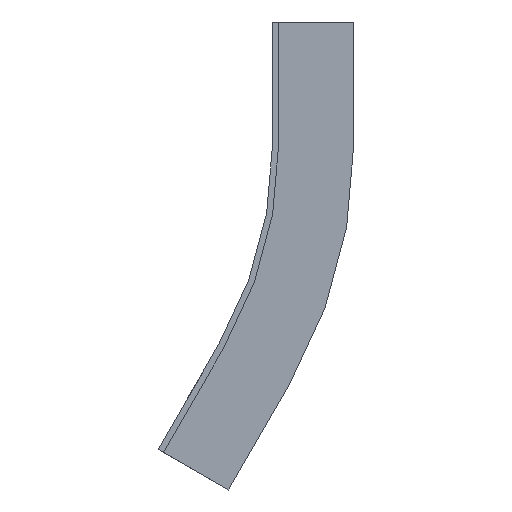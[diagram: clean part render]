
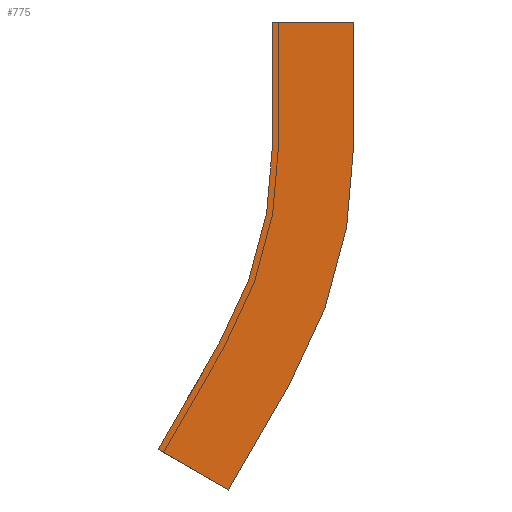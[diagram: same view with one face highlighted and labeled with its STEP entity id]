
A CAD part, left-side view. The second image highlights one B-rep face of the part: STEP entity #775.
In plain terms, the highlighted planar face has unit normal (-1, 0, 0).
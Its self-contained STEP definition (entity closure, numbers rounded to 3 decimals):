
#11 = DIRECTION ( 'NONE',  ( 0., 0., 1. ) ) ;
#13 = VERTEX_POINT ( 'NONE', #509 ) ;
#26 = VERTEX_POINT ( 'NONE', #111 ) ;
#27 = LINE ( 'NONE', #826, #350 ) ;
#61 = CARTESIAN_POINT ( 'NONE',  ( -203.5, 28.196, -105.231 ) ) ;
#80 = DIRECTION ( 'NONE',  ( 0., 0.5, -0.866 ) ) ;
#82 = ORIENTED_EDGE ( 'NONE', *, *, #229, .F. ) ;
#111 = CARTESIAN_POINT ( 'NONE',  ( -203.5, 10.876, -115.231 ) ) ;
#113 = VERTEX_POINT ( 'NONE', #174 ) ;
#122 = VECTOR ( 'NONE', #11, 1000. ) ;
#157 = ORIENTED_EDGE ( 'NONE', *, *, #719, .F. ) ;
#168 = ORIENTED_EDGE ( 'NONE', *, *, #214, .F. ) ;
#169 = DIRECTION ( 'NONE',  ( 0., -1., 0. ) ) ;
#173 = DIRECTION ( 'NONE',  ( 0., 0.866, 0.5 ) ) ;
#174 = CARTESIAN_POINT ( 'NONE',  ( -203.5, 0., 0. ) ) ;
#199 = DIRECTION ( 'NONE',  ( 0., 0., 1. ) ) ;
#202 = VERTEX_POINT ( 'NONE', #61 ) ;
#209 = DIRECTION ( 'NONE',  ( 0., 0., -1. ) ) ;
#214 = EDGE_CURVE ( 'NONE', #705, #397, #309, .T. ) ;
#216 = CARTESIAN_POINT ( 'NONE',  ( -203.5, 0., 0. ) ) ;
#222 = CARTESIAN_POINT ( 'NONE',  ( -203.5, 13.196, -79.25 ) ) ;
#223 = ORIENTED_EDGE ( 'NONE', *, *, #296, .F. ) ;
#229 = EDGE_CURVE ( 'NONE', #324, #113, #605, .T. ) ;
#243 = VECTOR ( 'NONE', #209, 1000. ) ;
#253 = CARTESIAN_POINT ( 'NONE',  ( -203.5, 13.196, -79.25 ) ) ;
#265 = ORIENTED_EDGE ( 'NONE', *, *, #635, .F. ) ;
#269 = VECTOR ( 'NONE', #173, 1000. ) ;
#296 = EDGE_CURVE ( 'NONE', #202, #438, #799, .T. ) ;
#300 = EDGE_CURVE ( 'NONE', #13, #705, #747, .T. ) ;
#309 = CIRCLE ( 'NONE', #470, 118.5 ) ;
#311 = ORIENTED_EDGE ( 'NONE', *, *, #328, .F. ) ;
#324 = VERTEX_POINT ( 'NONE', #428 ) ;
#328 = EDGE_CURVE ( 'NONE', #113, #13, #27, .T. ) ;
#345 = CARTESIAN_POINT ( 'NONE',  ( -203.5, -20., -30. ) ) ;
#350 = VECTOR ( 'NONE', #169, 1000. ) ;
#356 = EDGE_LOOP ( 'NONE', ( #311, #82, #265, #223, #157, #405, #168, #724 ) ) ;
#372 = CARTESIAN_POINT ( 'NONE',  ( -203.5, -4.124, -89.25 ) ) ;
#397 = VERTEX_POINT ( 'NONE', #372 ) ;
#405 = ORIENTED_EDGE ( 'NONE', *, *, #552, .F. ) ;
#416 = CIRCLE ( 'NONE', #566, 98.5 ) ;
#425 = DIRECTION ( 'NONE',  ( -1., 0., 0. ) ) ;
#428 = CARTESIAN_POINT ( 'NONE',  ( -203.5, 0., -30. ) ) ;
#438 = VERTEX_POINT ( 'NONE', #253 ) ;
#470 = AXIS2_PLACEMENT_3D ( 'NONE', #580, #855, #199 ) ;
#480 = DIRECTION ( 'NONE',  ( 0., -0.5, 0.866 ) ) ;
#492 = CARTESIAN_POINT ( 'NONE',  ( -203.5, 98.5, -30. ) ) ;
#494 = FACE_OUTER_BOUND ( 'NONE', #356, .T. ) ;
#509 = CARTESIAN_POINT ( 'NONE',  ( -203.5, -20., 0. ) ) ;
#538 = DIRECTION ( 'NONE',  ( 1., 0., 0. ) ) ;
#542 = VECTOR ( 'NONE', #480, 1000. ) ;
#546 = CARTESIAN_POINT ( 'NONE',  ( -203.5, 98.5, -30. ) ) ;
#550 = DIRECTION ( 'NONE',  ( 0., 0., -1. ) ) ;
#552 = EDGE_CURVE ( 'NONE', #397, #26, #730, .T. ) ;
#566 = AXIS2_PLACEMENT_3D ( 'NONE', #492, #425, #550 ) ;
#568 = CARTESIAN_POINT ( 'NONE',  ( -203.5, 28.196, -105.231 ) ) ;
#572 = LINE ( 'NONE', #568, #269 ) ;
#580 = CARTESIAN_POINT ( 'NONE',  ( -203.5, 98.5, -30. ) ) ;
#581 = AXIS2_PLACEMENT_3D ( 'NONE', #546, #538, #748 ) ;
#605 = LINE ( 'NONE', #216, #122 ) ;
#635 = EDGE_CURVE ( 'NONE', #438, #324, #416, .T. ) ;
#673 = PLANE ( 'NONE',  #581 ) ;
#695 = CARTESIAN_POINT ( 'NONE',  ( -203.5, -20., -30. ) ) ;
#705 = VERTEX_POINT ( 'NONE', #695 ) ;
#719 = EDGE_CURVE ( 'NONE', #26, #202, #572, .T. ) ;
#724 = ORIENTED_EDGE ( 'NONE', *, *, #300, .F. ) ;
#728 = VECTOR ( 'NONE', #80, 1000. ) ;
#730 = LINE ( 'NONE', #806, #728 ) ;
#747 = LINE ( 'NONE', #345, #243 ) ;
#748 = DIRECTION ( 'NONE',  ( 0., 0., -1. ) ) ;
#775 = ADVANCED_FACE ( 'NONE', ( #494 ), #673, .F. ) ;
#799 = LINE ( 'NONE', #222, #542 ) ;
#806 = CARTESIAN_POINT ( 'NONE',  ( -203.5, 10.876, -115.231 ) ) ;
#826 = CARTESIAN_POINT ( 'NONE',  ( -203.5, -20., 0. ) ) ;
#855 = DIRECTION ( 'NONE',  ( 1., 0., 0. ) ) ;
